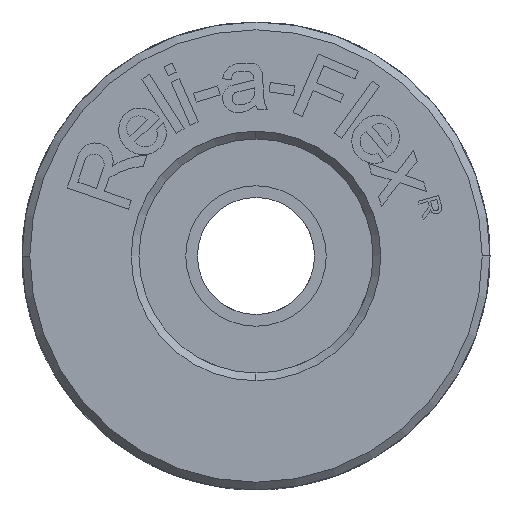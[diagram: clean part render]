
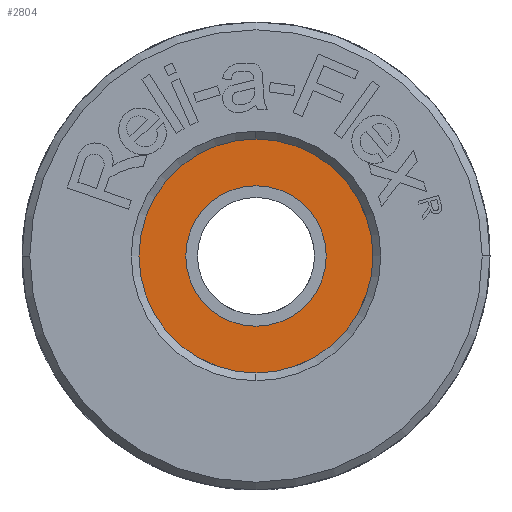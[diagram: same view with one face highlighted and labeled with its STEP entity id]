
A CAD part, front view. The second image highlights one B-rep face of the part: STEP entity #2804.
In plain terms, the highlighted planar face has unit normal (0, -1, 0).
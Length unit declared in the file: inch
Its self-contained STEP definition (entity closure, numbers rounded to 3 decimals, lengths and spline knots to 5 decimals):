
#369 = CARTESIAN_POINT ( 'NONE',  ( 0., 0.09449, 0. ) ) ;
#370 = DIRECTION ( 'NONE',  ( 0., 1., 0. ) ) ;
#371 = DIRECTION ( 'NONE',  ( 0., 0., -1. ) ) ;
#571 = FACE_OUTER_BOUND ( 'NONE', #5930, .T. ) ;
#583 = CARTESIAN_POINT ( 'NONE',  ( -0.05976, 0.09449, 0.05976 ) ) ;
#588 = FACE_BOUND ( 'NONE', #5929, .T. ) ;
#593 = PLANE ( 'NONE',  #3290 ) ;
#594 = DIRECTION ( 'NONE',  ( 0., -1., 0. ) ) ;
#595 = DIRECTION ( 'NONE',  ( 0., 0., -1. ) ) ;
#1456 = CARTESIAN_POINT ( 'NONE',  ( 0., 0.09449, -0.05906 ) ) ;
#1462 = CARTESIAN_POINT ( 'NONE',  ( 0., 0.09449, 0.05906 ) ) ;
#1682 = AXIS2_PLACEMENT_3D ( 'NONE', #3365, #3367, #3368 ) ;
#1685 = CIRCLE ( 'NONE', #1682, 0.05906 ) ;
#2002 = VERTEX_POINT ( 'NONE', #6429 ) ;
#2004 = VERTEX_POINT ( 'NONE', #6426 ) ;
#2203 = EDGE_CURVE ( 'NONE', #2004, #2002, #5479, .T. ) ;
#2316 = CIRCLE ( 'NONE', #2321, 0.03543 ) ;
#2321 = AXIS2_PLACEMENT_3D ( 'NONE', #4281, #4282, #4283 ) ;
#2747 = EDGE_CURVE ( 'NONE', #5126, #5132, #3414, .T. ) ;
#2804 = ADVANCED_FACE ( 'NONE', ( #588, #571 ), #593, .T. ) ;
#3290 = AXIS2_PLACEMENT_3D ( 'NONE', #583, #594, #595 ) ;
#3365 = CARTESIAN_POINT ( 'NONE',  ( 0., 0.09449, 0. ) ) ;
#3367 = DIRECTION ( 'NONE',  ( 0., 1., 0. ) ) ;
#3368 = DIRECTION ( 'NONE',  ( 0., 0., -1. ) ) ;
#3392 = AXIS2_PLACEMENT_3D ( 'NONE', #369, #370, #371 ) ;
#3414 = CIRCLE ( 'NONE', #3392, 0.05906 ) ;
#4281 = CARTESIAN_POINT ( 'NONE',  ( 0., 0.09449, 0. ) ) ;
#4282 = DIRECTION ( 'NONE',  ( 0., 1., 0. ) ) ;
#4283 = DIRECTION ( 'NONE',  ( 0., 0., -1. ) ) ;
#5126 = VERTEX_POINT ( 'NONE', #1456 ) ;
#5132 = VERTEX_POINT ( 'NONE', #1462 ) ;
#5155 = ORIENTED_EDGE ( 'NONE', *, *, #6220, .T. ) ;
#5156 = ORIENTED_EDGE ( 'NONE', *, *, #2203, .T. ) ;
#5157 = ORIENTED_EDGE ( 'NONE', *, *, #2747, .F. ) ;
#5158 = ORIENTED_EDGE ( 'NONE', *, *, #5670, .F. ) ;
#5479 = CIRCLE ( 'NONE', #5501, 0.03543 ) ;
#5501 = AXIS2_PLACEMENT_3D ( 'NONE', #6569, #6570, #6571 ) ;
#5670 = EDGE_CURVE ( 'NONE', #5132, #5126, #1685, .T. ) ;
#5929 = EDGE_LOOP ( 'NONE', ( #5155, #5156 ) ) ;
#5930 = EDGE_LOOP ( 'NONE', ( #5157, #5158 ) ) ;
#6220 = EDGE_CURVE ( 'NONE', #2002, #2004, #2316, .T. ) ;
#6426 = CARTESIAN_POINT ( 'NONE',  ( 0., 0.09449, 0.03543 ) ) ;
#6429 = CARTESIAN_POINT ( 'NONE',  ( 0., 0.09449, -0.03543 ) ) ;
#6569 = CARTESIAN_POINT ( 'NONE',  ( 0., 0.09449, 0. ) ) ;
#6570 = DIRECTION ( 'NONE',  ( 0., 1., 0. ) ) ;
#6571 = DIRECTION ( 'NONE',  ( 0., 0., -1. ) ) ;
